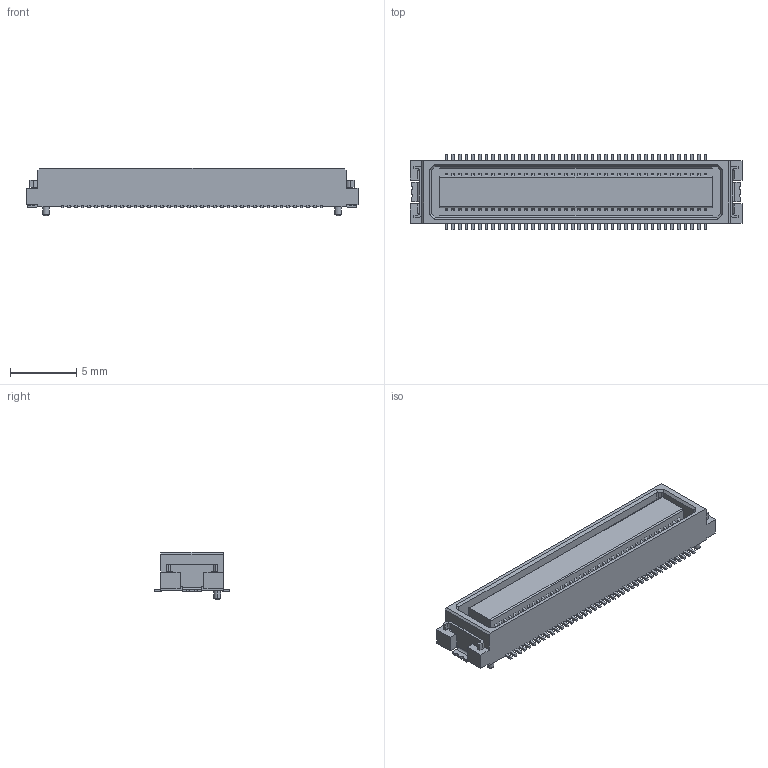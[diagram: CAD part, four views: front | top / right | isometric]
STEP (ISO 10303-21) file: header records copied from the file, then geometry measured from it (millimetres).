
FILE_DESCRIPTION(('OneSpaceDesigner STEP Export'),'2;1');
FILE_NAME('DF17(3_0H)-80DS-0_5V.stp','2008-03-11T21:55:59',(''),(''),'OneSpace Designer STEP processor for AP214 (Solid Model)','OneSpace Modeling 15.00A 14-Mar-2007 (C) CoCreate Software GmbH','');
FILE_SCHEMA(('AUTOMOTIVE_DESIGN { 1 0 10303 214 1 1 1 1 }'));
Length unit declared in the file: millimetre
Products named in the file (2): DF17(3.0H)-80DS-0.5V
Assembly tree (1 placements, depth 2):
  DF17(3.0H)-80DS-0.5V
    DF17(3.0H)-80DS-0.5V
Bounding box: 25 x 5.7 x 3.6 mm (x, y, z)
Volume: 241 mm3; surface area: 704 mm2
Topology: 1 solids, 1 shells, 1516 faces, 4527 edges, 3017 vertices
Faces by surface type: plane 1162, cylinder 350, cone 4
Entity records: 59449 total; most frequent: ORIENTED_EDGE 9054, CARTESIAN_POINT 8487, DIRECTION 7081, EDGE_CURVE 4527, VECTOR 3731, LINE 3731, VERTEX_POINT 3017, EDGE_LOOP 1680
